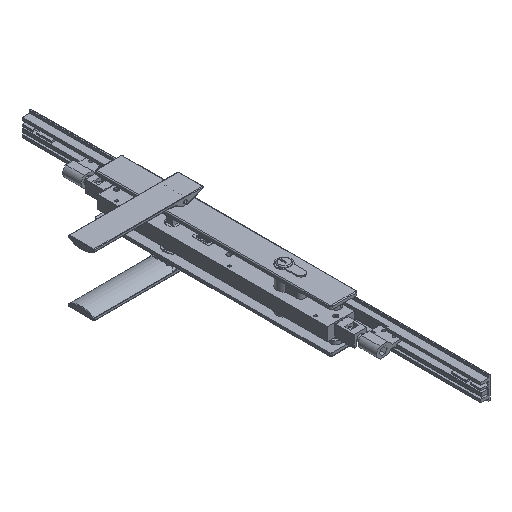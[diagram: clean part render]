
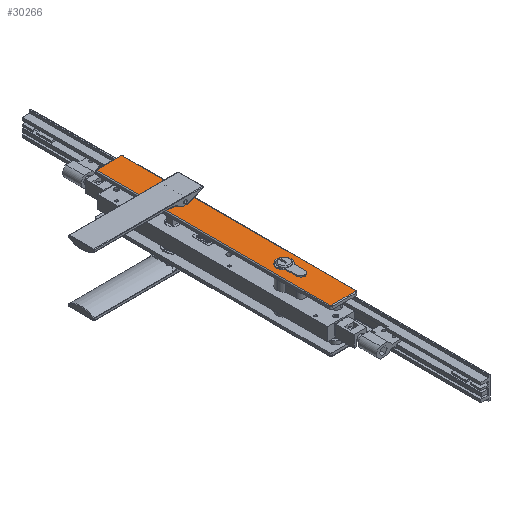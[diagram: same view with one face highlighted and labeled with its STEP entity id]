
A CAD part, isometric view. The second image highlights one B-rep face of the part: STEP entity #30266.
In plain terms, the highlighted planar face has unit normal (0, 0, 1).
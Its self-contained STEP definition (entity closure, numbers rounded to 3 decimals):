
#45 = DIRECTION ( 'NONE',  ( 0., 0., 1. ) ) ;
#90 = VERTEX_POINT ( 'NONE', #26719 ) ;
#349 = DIRECTION ( 'NONE',  ( 0., 0., 1. ) ) ;
#385 = CARTESIAN_POINT ( 'NONE',  ( -43.915, -55.552, 16.207 ) ) ;
#387 = DIRECTION ( 'NONE',  ( 1., 0., 0. ) ) ;
#480 = VECTOR ( 'NONE', #32426, 1000. ) ;
#503 = VERTEX_POINT ( 'NONE', #20688 ) ;
#523 = AXIS2_PLACEMENT_3D ( 'NONE', #23854, #349, #18563 ) ;
#1075 = CARTESIAN_POINT ( 'NONE',  ( -52.615, -55.552, 16.207 ) ) ;
#1695 = DIRECTION ( 'NONE',  ( 0., 1., 0. ) ) ;
#2228 = VERTEX_POINT ( 'NONE', #33258 ) ;
#2493 = CARTESIAN_POINT ( 'NONE',  ( -58.915, 151.198, 16.207 ) ) ;
#2570 = FACE_OUTER_BOUND ( 'NONE', #8944, .T. ) ;
#2725 = ORIENTED_EDGE ( 'NONE', *, *, #28369, .F. ) ;
#2782 = VECTOR ( 'NONE', #8927, 1000. ) ;
#3018 = AXIS2_PLACEMENT_3D ( 'NONE', #29880, #17004, #27360 ) ;
#3254 = EDGE_CURVE ( 'NONE', #503, #17078, #8346, .T. ) ;
#3293 = EDGE_CURVE ( 'NONE', #30596, #28692, #28188, .T. ) ;
#3383 = VECTOR ( 'NONE', #9249, 1000. ) ;
#3735 = ORIENTED_EDGE ( 'NONE', *, *, #5568, .T. ) ;
#3860 = EDGE_LOOP ( 'NONE', ( #2725, #18706, #22763, #10736, #15617, #15976 ) ) ;
#3888 = LINE ( 'NONE', #8837, #4008 ) ;
#4008 = VECTOR ( 'NONE', #32290, 1000. ) ;
#4878 = CARTESIAN_POINT ( 'NONE',  ( -43.915, -75.052, 16.207 ) ) ;
#5011 = AXIS2_PLACEMENT_3D ( 'NONE', #6970, #12916, #27743 ) ;
#5051 = DIRECTION ( 'NONE',  ( 1., 0., 0. ) ) ;
#5279 = DIRECTION ( 'NONE',  ( 0., 0., 1. ) ) ;
#5318 = ORIENTED_EDGE ( 'NONE', *, *, #18283, .T. ) ;
#5367 = EDGE_CURVE ( 'NONE', #17078, #20908, #11486, .T. ) ;
#5453 = CARTESIAN_POINT ( 'NONE',  ( -43.915, 76.448, 16.207 ) ) ;
#5568 = EDGE_CURVE ( 'NONE', #14915, #2228, #21852, .T. ) ;
#6088 = DIRECTION ( 'NONE',  ( 0., 0., 1. ) ) ;
#6585 = CARTESIAN_POINT ( 'NONE',  ( -29.915, -125.802, 16.207 ) ) ;
#6626 = VERTEX_POINT ( 'NONE', #21402 ) ;
#6970 = CARTESIAN_POINT ( 'NONE',  ( -43.915, 76.448, 16.207 ) ) ;
#7454 = EDGE_LOOP ( 'NONE', ( #20069, #18531 ) ) ;
#7838 = VERTEX_POINT ( 'NONE', #1075 ) ;
#7890 = CIRCLE ( 'NONE', #28039, 8.7 ) ;
#8128 = AXIS2_PLACEMENT_3D ( 'NONE', #25172, #14772, #30361 ) ;
#8326 = VECTOR ( 'NONE', #27646, 1000. ) ;
#8346 = LINE ( 'NONE', #17012, #480 ) ;
#8605 = AXIS2_PLACEMENT_3D ( 'NONE', #385, #45, #10745 ) ;
#8657 = CARTESIAN_POINT ( 'NONE',  ( -29.915, -124.802, 16.207 ) ) ;
#8704 = CIRCLE ( 'NONE', #9250, 1. ) ;
#8836 = CARTESIAN_POINT ( 'NONE',  ( -28.915, 151.198, 16.207 ) ) ;
#8837 = CARTESIAN_POINT ( 'NONE',  ( -57.915, 152.198, 16.207 ) ) ;
#8927 = DIRECTION ( 'NONE',  ( 0., 1., 0. ) ) ;
#8944 = EDGE_LOOP ( 'NONE', ( #19245, #26432, #32585, #10948, #23305, #5318, #14973, #3735 ) ) ;
#9249 = DIRECTION ( 'NONE',  ( 1., 0., 0. ) ) ;
#9250 = AXIS2_PLACEMENT_3D ( 'NONE', #12007, #32396, #13598 ) ;
#9302 = EDGE_CURVE ( 'NONE', #20908, #23914, #14404, .T. ) ;
#9402 = CIRCLE ( 'NONE', #5011, 6.5 ) ;
#9738 = CIRCLE ( 'NONE', #523, 6.5 ) ;
#9801 = AXIS2_PLACEMENT_3D ( 'NONE', #5453, #5279, #387 ) ;
#10736 = ORIENTED_EDGE ( 'NONE', *, *, #3254, .F. ) ;
#10745 = DIRECTION ( 'NONE',  ( 1., 0., 0. ) ) ;
#10948 = ORIENTED_EDGE ( 'NONE', *, *, #3293, .T. ) ;
#11073 = DIRECTION ( 'NONE',  ( 1., 0., 0. ) ) ;
#11154 = AXIS2_PLACEMENT_3D ( 'NONE', #8657, #6088, #11073 ) ;
#11354 = EDGE_CURVE ( 'NONE', #19285, #30596, #17293, .T. ) ;
#11429 = VERTEX_POINT ( 'NONE', #20505 ) ;
#11486 = CIRCLE ( 'NONE', #31469, 5.2 ) ;
#12007 = CARTESIAN_POINT ( 'NONE',  ( -57.915, 151.198, 16.207 ) ) ;
#12009 = EDGE_CURVE ( 'NONE', #2228, #11429, #3888, .T. ) ;
#12305 = LINE ( 'NONE', #32711, #3383 ) ;
#12761 = CARTESIAN_POINT ( 'NONE',  ( -58.915, -124.802, 16.207 ) ) ;
#12833 = EDGE_CURVE ( 'NONE', #7838, #503, #30180, .T. ) ;
#12899 = DIRECTION ( 'NONE',  ( 0., 0., 1. ) ) ;
#12916 = DIRECTION ( 'NONE',  ( 0., 0., 1. ) ) ;
#13309 = PLANE ( 'NONE',  #9801 ) ;
#13598 = DIRECTION ( 'NONE',  ( 1., 0., 0. ) ) ;
#14061 = CARTESIAN_POINT ( 'NONE',  ( -49.115, -75.052, 16.207 ) ) ;
#14234 = CARTESIAN_POINT ( 'NONE',  ( -38.715, -75.052, 16.207 ) ) ;
#14404 = LINE ( 'NONE', #14234, #2782 ) ;
#14772 = DIRECTION ( 'NONE',  ( 0., 0., 1. ) ) ;
#14915 = VERTEX_POINT ( 'NONE', #8836 ) ;
#14946 = EDGE_CURVE ( 'NONE', #30651, #14915, #16866, .T. ) ;
#14973 = ORIENTED_EDGE ( 'NONE', *, *, #14946, .T. ) ;
#15617 = ORIENTED_EDGE ( 'NONE', *, *, #12833, .F. ) ;
#15673 = CIRCLE ( 'NONE', #8605, 8.7 ) ;
#15976 = ORIENTED_EDGE ( 'NONE', *, *, #20001, .F. ) ;
#16420 = CARTESIAN_POINT ( 'NONE',  ( -38.715, -75.052, 16.207 ) ) ;
#16866 = LINE ( 'NONE', #21819, #22266 ) ;
#17004 = DIRECTION ( 'NONE',  ( 0., 0., 1. ) ) ;
#17012 = CARTESIAN_POINT ( 'NONE',  ( -49.115, -75.052, 16.207 ) ) ;
#17078 = VERTEX_POINT ( 'NONE', #14061 ) ;
#17172 = CARTESIAN_POINT ( 'NONE',  ( -28.915, -124.802, 16.207 ) ) ;
#17293 = LINE ( 'NONE', #30008, #8326 ) ;
#17735 = DIRECTION ( 'NONE',  ( 1., 0., 0. ) ) ;
#18283 = EDGE_CURVE ( 'NONE', #31622, #30651, #18814, .T. ) ;
#18531 = ORIENTED_EDGE ( 'NONE', *, *, #23388, .F. ) ;
#18563 = DIRECTION ( 'NONE',  ( 1., 0., 0. ) ) ;
#18706 = ORIENTED_EDGE ( 'NONE', *, *, #9302, .F. ) ;
#18814 = CIRCLE ( 'NONE', #11154, 1. ) ;
#19245 = ORIENTED_EDGE ( 'NONE', *, *, #12009, .T. ) ;
#19285 = VERTEX_POINT ( 'NONE', #2493 ) ;
#19558 = DIRECTION ( 'NONE',  ( 1., 0., 0. ) ) ;
#20001 = EDGE_CURVE ( 'NONE', #6626, #7838, #7890, .T. ) ;
#20069 = ORIENTED_EDGE ( 'NONE', *, *, #32212, .F. ) ;
#20291 = DIRECTION ( 'NONE',  ( 0., 0., 1. ) ) ;
#20505 = CARTESIAN_POINT ( 'NONE',  ( -57.915, 152.198, 16.207 ) ) ;
#20688 = CARTESIAN_POINT ( 'NONE',  ( -49.115, -62.527, 16.207 ) ) ;
#20908 = VERTEX_POINT ( 'NONE', #16420 ) ;
#21402 = CARTESIAN_POINT ( 'NONE',  ( -35.215, -55.552, 16.207 ) ) ;
#21819 = CARTESIAN_POINT ( 'NONE',  ( -28.915, 151.198, 16.207 ) ) ;
#21852 = CIRCLE ( 'NONE', #8128, 1. ) ;
#22266 = VECTOR ( 'NONE', #1695, 1000. ) ;
#22763 = ORIENTED_EDGE ( 'NONE', *, *, #5367, .F. ) ;
#23305 = ORIENTED_EDGE ( 'NONE', *, *, #26380, .T. ) ;
#23388 = EDGE_CURVE ( 'NONE', #33457, #90, #9738, .T. ) ;
#23724 = FACE_BOUND ( 'NONE', #3860, .T. ) ;
#23854 = CARTESIAN_POINT ( 'NONE',  ( -43.915, 76.448, 16.207 ) ) ;
#23914 = VERTEX_POINT ( 'NONE', #32746 ) ;
#24843 = DIRECTION ( 'NONE',  ( 0., 0., 1. ) ) ;
#25172 = CARTESIAN_POINT ( 'NONE',  ( -29.915, 151.198, 16.207 ) ) ;
#26380 = EDGE_CURVE ( 'NONE', #28692, #31622, #12305, .T. ) ;
#26432 = ORIENTED_EDGE ( 'NONE', *, *, #29837, .T. ) ;
#26719 = CARTESIAN_POINT ( 'NONE',  ( -37.415, 76.448, 16.207 ) ) ;
#27360 = DIRECTION ( 'NONE',  ( 1., 0., 0. ) ) ;
#27646 = DIRECTION ( 'NONE',  ( 0., -1., 0. ) ) ;
#27743 = DIRECTION ( 'NONE',  ( 1., 0., 0. ) ) ;
#28039 = AXIS2_PLACEMENT_3D ( 'NONE', #30275, #20291, #17735 ) ;
#28188 = CIRCLE ( 'NONE', #32512, 1. ) ;
#28369 = EDGE_CURVE ( 'NONE', #23914, #6626, #15673, .T. ) ;
#28604 = FACE_BOUND ( 'NONE', #7454, .T. ) ;
#28692 = VERTEX_POINT ( 'NONE', #29668 ) ;
#29668 = CARTESIAN_POINT ( 'NONE',  ( -57.915, -125.802, 16.207 ) ) ;
#29837 = EDGE_CURVE ( 'NONE', #11429, #19285, #8704, .T. ) ;
#29880 = CARTESIAN_POINT ( 'NONE',  ( -43.915, -55.552, 16.207 ) ) ;
#30008 = CARTESIAN_POINT ( 'NONE',  ( -58.915, -124.802, 16.207 ) ) ;
#30180 = CIRCLE ( 'NONE', #3018, 8.7 ) ;
#30266 = ADVANCED_FACE ( 'NONE', ( #2570, #28604, #23724 ), #13309, .T. ) ;
#30275 = CARTESIAN_POINT ( 'NONE',  ( -43.915, -55.552, 16.207 ) ) ;
#30361 = DIRECTION ( 'NONE',  ( 1., 0., 0. ) ) ;
#30596 = VERTEX_POINT ( 'NONE', #12761 ) ;
#30651 = VERTEX_POINT ( 'NONE', #17172 ) ;
#31469 = AXIS2_PLACEMENT_3D ( 'NONE', #4878, #12899, #5051 ) ;
#31622 = VERTEX_POINT ( 'NONE', #6585 ) ;
#32212 = EDGE_CURVE ( 'NONE', #90, #33457, #9402, .T. ) ;
#32290 = DIRECTION ( 'NONE',  ( -1., 0., 0. ) ) ;
#32396 = DIRECTION ( 'NONE',  ( 0., 0., 1. ) ) ;
#32426 = DIRECTION ( 'NONE',  ( 0., -1., 0. ) ) ;
#32512 = AXIS2_PLACEMENT_3D ( 'NONE', #32591, #24843, #19558 ) ;
#32585 = ORIENTED_EDGE ( 'NONE', *, *, #11354, .T. ) ;
#32591 = CARTESIAN_POINT ( 'NONE',  ( -57.915, -124.802, 16.207 ) ) ;
#32711 = CARTESIAN_POINT ( 'NONE',  ( -29.915, -125.802, 16.207 ) ) ;
#32746 = CARTESIAN_POINT ( 'NONE',  ( -38.715, -62.527, 16.207 ) ) ;
#33258 = CARTESIAN_POINT ( 'NONE',  ( -29.915, 152.198, 16.207 ) ) ;
#33320 = CARTESIAN_POINT ( 'NONE',  ( -50.415, 76.448, 16.207 ) ) ;
#33457 = VERTEX_POINT ( 'NONE', #33320 ) ;
